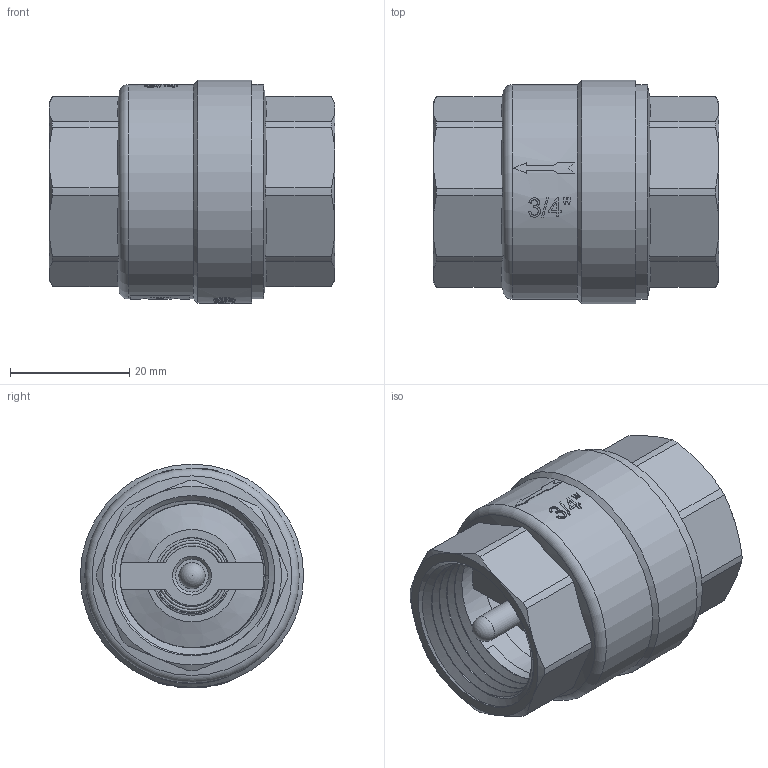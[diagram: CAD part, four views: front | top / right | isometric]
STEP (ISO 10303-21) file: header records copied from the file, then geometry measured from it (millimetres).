
FILE_DESCRIPTION(/* description */ (''),/* implementation_level */ '2;1');
FILE_NAME(/* name */ 'F:\Артём\00000\Работа удаленка\═╝╓╜\VT.161\VT.161.N.05.stp',/* time_stamp */ '2021-04-01T14:43:06+03:00',/* author */ ('almis'),/* organization */ (''),/* preprocessor_version */ 'ST-DEVELOPER v18',/* originating_system */ 'Autodesk Inventor 2020',/* authorisation */ '');
FILE_SCHEMA (('AUTOMOTIVE_DESIGN { 1 0 10303 214 3 1 1 }'));
Length unit declared in the file: millimetre
Products named in the file (1): VT.161.N.05
Bounding box: 48 x 37.5 x 37.6 mm (x, y, z)
Volume: 21214.3 mm3; surface area: 16930.1 mm2
Topology: 1 solids, 1 shells, 286 faces, 777 edges, 520 vertices
Faces by surface type: plane 126, cylinder 81, bspline 44, cone 31, torus 3, sphere 1
Full cylindrical faces by diameter (mm): 4.4 x3, 5 x1, 5.4 x1, 5.5 x1, 12.7 x1, 22.5 x1, 24.2 x8, 27.8 x13, 28 x2, 29 x1, 31.5 x1, 36 x2, 37.5 x1
Entity records: 14851 total; most frequent: CARTESIAN_POINT 7838, ORIENTED_EDGE 1552, DIRECTION 1346, EDGE_CURVE 776, VERTEX_POINT 520, AXIS2_PLACEMENT_3D 520, EDGE_LOOP 324, LINE 306
